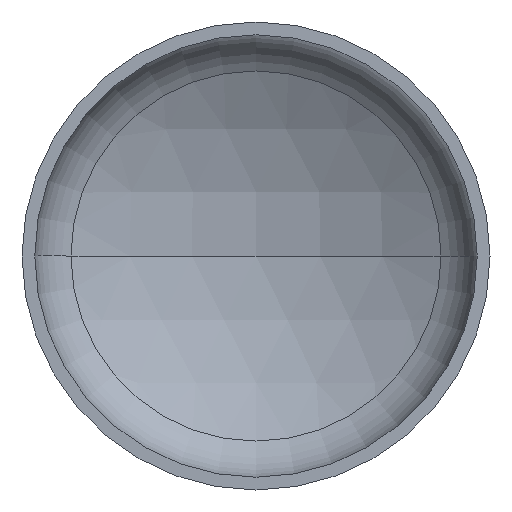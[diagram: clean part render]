
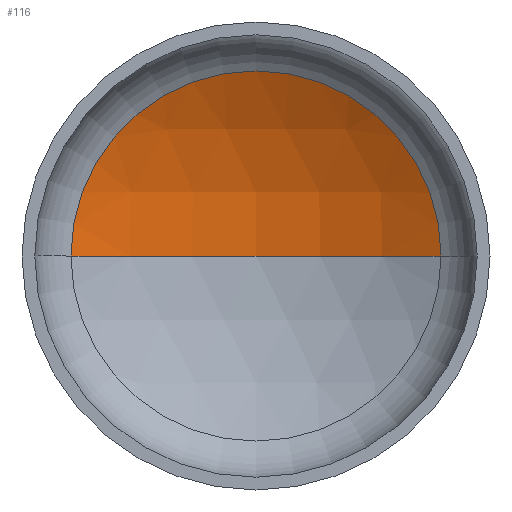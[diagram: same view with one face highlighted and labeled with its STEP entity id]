
A CAD part, front view. The second image highlights one B-rep face of the part: STEP entity #116.
In plain terms, the highlighted spherical face has radius 1520 mm.
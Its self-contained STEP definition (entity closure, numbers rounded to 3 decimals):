
#9 = ORIENTED_EDGE ( 'NONE', *, *, #196, .T. ) ;
#20 = VERTEX_POINT ( 'NONE', #292 ) ;
#39 = DIRECTION ( 'NONE',  ( -1., 0., 0. ) ) ;
#41 = AXIS2_PLACEMENT_3D ( 'NONE', #384, #383, #380 ) ;
#43 = DIRECTION ( 'NONE',  ( 0., 0., -1. ) ) ;
#46 = AXIS2_PLACEMENT_3D ( 'NONE', #255, #253, #251 ) ;
#50 = AXIS2_PLACEMENT_3D ( 'NONE', #193, #43, #39 ) ;
#53 = VERTEX_POINT ( 'NONE', #294 ) ;
#54 = ORIENTED_EDGE ( 'NONE', *, *, #214, .T. ) ;
#68 = AXIS2_PLACEMENT_3D ( 'NONE', #326, #346, #310 ) ;
#107 = VERTEX_POINT ( 'NONE', #341 ) ;
#116 = ADVANCED_FACE ( 'NONE', ( #169 ), #175, .F. ) ;
#129 = EDGE_LOOP ( 'NONE', ( #131, #54, #9 ) ) ;
#131 = ORIENTED_EDGE ( 'NONE', *, *, #238, .F. ) ;
#169 = FACE_OUTER_BOUND ( 'NONE', #129, .T. ) ;
#175 = SPHERICAL_SURFACE ( 'NONE', #68, 1520. ) ;
#183 = CIRCLE ( 'NONE', #50, 1520. ) ;
#193 = CARTESIAN_POINT ( 'NONE',  ( 0., -949.222, 0. ) ) ;
#196 = EDGE_CURVE ( 'NONE', #20, #53, #360, .T. ) ;
#214 = EDGE_CURVE ( 'NONE', #107, #20, #183, .T. ) ;
#238 = EDGE_CURVE ( 'NONE', #107, #53, #297, .T. ) ;
#251 = DIRECTION ( 'NONE',  ( 1., 0., 0. ) ) ;
#253 = DIRECTION ( 'NONE',  ( 0., -1., 0. ) ) ;
#255 = CARTESIAN_POINT ( 'NONE',  ( 0., 372.093, 0. ) ) ;
#292 = CARTESIAN_POINT ( 'NONE',  ( 751.35, 372.093, 0. ) ) ;
#294 = CARTESIAN_POINT ( 'NONE',  ( -751.35, 372.093, 0. ) ) ;
#297 = CIRCLE ( 'NONE', #41, 1520. ) ;
#310 = DIRECTION ( 'NONE',  ( -1., 0., 0. ) ) ;
#326 = CARTESIAN_POINT ( 'NONE',  ( 0., -949.222, 0. ) ) ;
#341 = CARTESIAN_POINT ( 'NONE',  ( 0., 570.778, 0. ) ) ;
#346 = DIRECTION ( 'NONE',  ( 0., 0., -1. ) ) ;
#360 = CIRCLE ( 'NONE', #46, 751.35 ) ;
#380 = DIRECTION ( 'NONE',  ( 1., 0., 0. ) ) ;
#383 = DIRECTION ( 'NONE',  ( 0., 0., 1. ) ) ;
#384 = CARTESIAN_POINT ( 'NONE',  ( 0., -949.222, 0. ) ) ;
